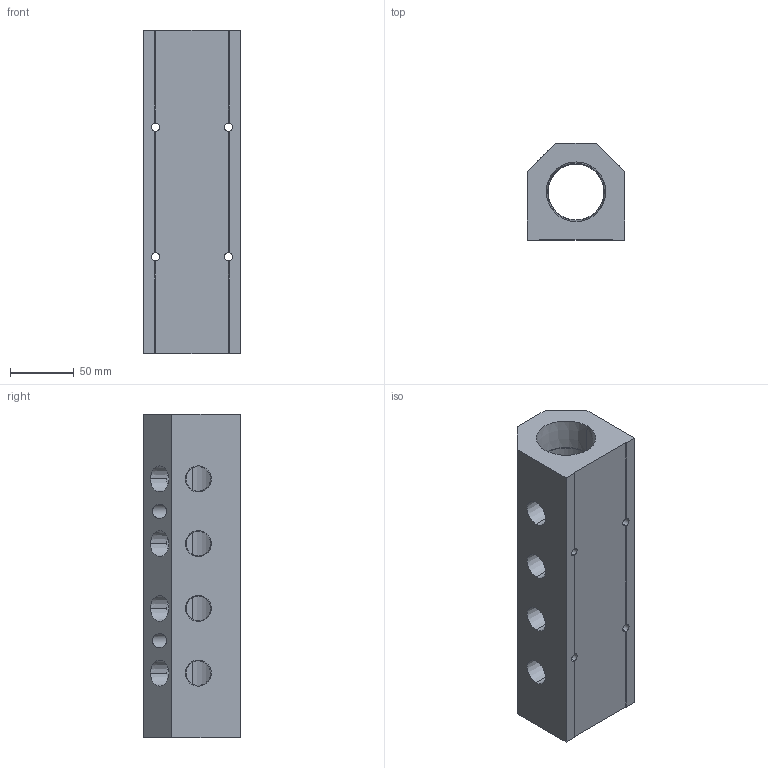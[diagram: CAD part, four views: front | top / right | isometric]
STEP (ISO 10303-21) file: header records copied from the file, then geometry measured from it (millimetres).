
FILE_DESCRIPTION (( 'STEP AP214' ), '1' );
FILE_NAME ('ALM4ABC-N8N24-254R.step', '2022-02-07T09:23:17', ( '' ), ( '' ), 'SwSTEP 2.0', 'SolidWorks 2020', '' );
FILE_SCHEMA (( 'AUTOMOTIVE_DESIGN' ));
Length unit declared in the file: millimetre
Products named in the file (1): ALM4ABC-N8N24-254R
Bounding box: 76.2 x 76.2 x 254 mm (x, y, z)
Volume: 875741.4 mm3; surface area: 124568.5 mm2
Topology: 1 solids, 1 shells, 346 faces, 952 edges, 632 vertices
Faces by surface type: plane 236, bspline 64, cone 28, cylinder 18
Entity records: 19367 total; most frequent: CARTESIAN_POINT 7747, ORIENTED_EDGE 1904, DIRECTION 1378, EDGE_CURVE 952, VECTOR 692, LINE 692, VERTEX_POINT 632, EDGE_LOOP 404
